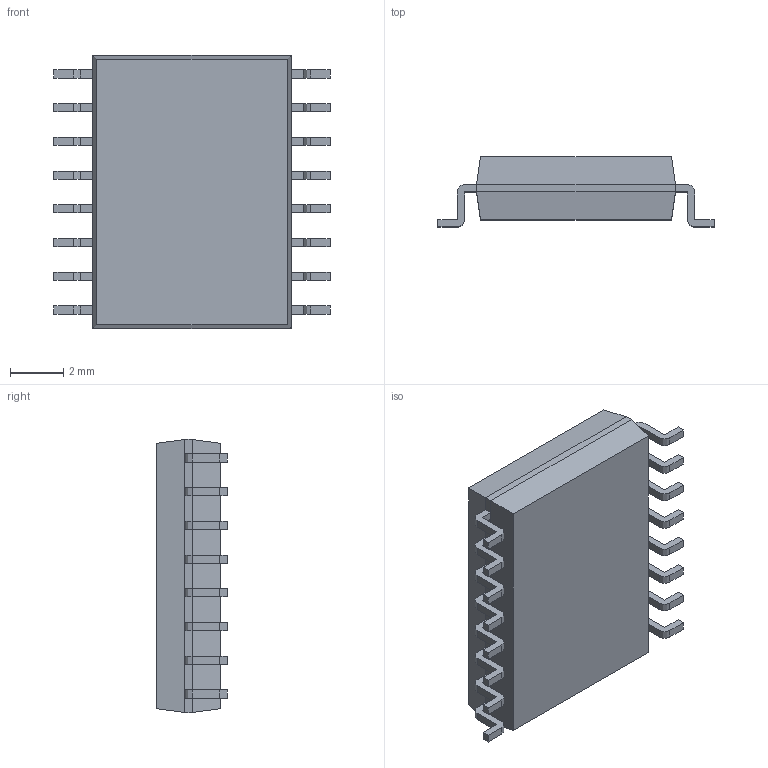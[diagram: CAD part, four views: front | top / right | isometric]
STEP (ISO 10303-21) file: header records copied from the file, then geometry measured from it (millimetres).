
FILE_DESCRIPTION(('FreeCAD Model'),'2;1');
FILE_NAME('Open CASCADE Shape Model','2025-09-25T04:00:13',(''),(''), 'Open CASCADE STEP processor 7.8','FreeCAD','Unknown');
FILE_SCHEMA(('AUTOMOTIVE_DESIGN { 1 0 10303 214 1 1 1 1 }'));
Length unit declared in the file: millimetre
Products named in the file (9): SOIC_standard; Array; Body001 (Mirror #1); Array001; Body001; Body; Body003; XY-plane; X-axis
Assembly tree (44 placements, depth 3):
  SOIC_standard
    Array
      Body001 (Mirror #1)  x8
    Array001
      Body001  x8
    Body
    Body003
    XY-plane  x12
    X-axis  x12
Bounding box: 10.4 x 2.65 x 10.29 mm (x, y, z)
Volume: 181.8 mm3; surface area: 281.7 mm2
Topology: 18 solids, 18 shells, 211 faces, 526 edges, 340 vertices
Faces by surface type: plane 177, cylinder 34
Full cylindrical faces by diameter (mm): 0.749 x2
Entity records: 1641 total; most frequent: DIRECTION 283, CARTESIAN_POINT 243, ORIENTED_EDGE 188, AXIS2_PLACEMENT_3D 100, EDGE_CURVE 94, LINE 83, VECTOR 83, VERTEX_POINT 60
